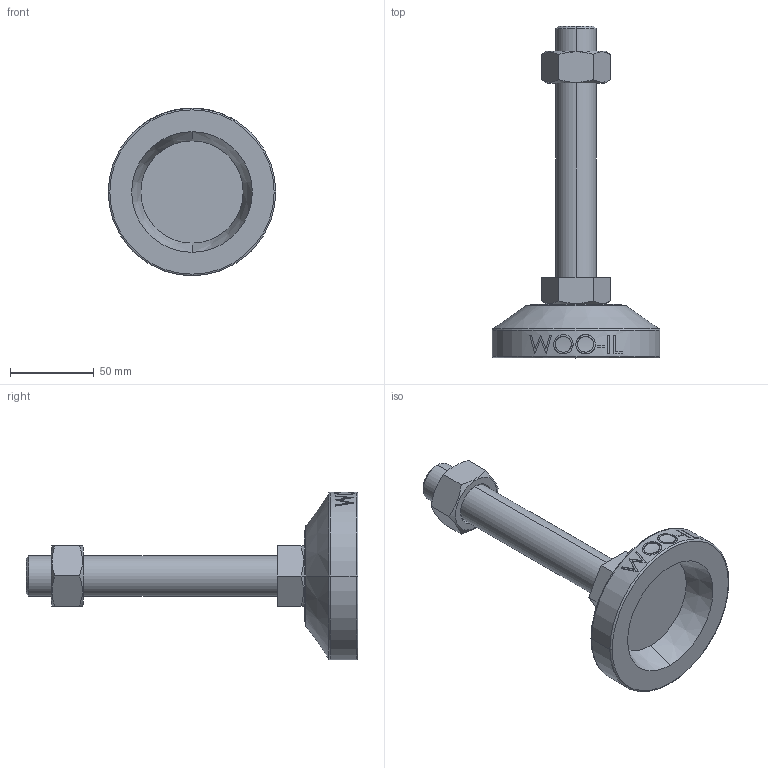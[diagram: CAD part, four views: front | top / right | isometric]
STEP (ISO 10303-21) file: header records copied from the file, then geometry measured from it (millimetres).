
FILE_DESCRIPTION (( 'STEP AP214' ), '1' );
FILE_NAME ('PAD-B100-M24-150.step', '2021-01-26T23:42:39', ( '' ), ( '' ), 'SwSTEP 2.0', 'SolidWorks 2019', '' );
FILE_SCHEMA (( 'AUTOMOTIVE_DESIGN' ));
Length unit declared in the file: millimetre
Products named in the file (2): PAD-B100-M24-150
Bounding box: 100 x 198 x 100 mm (x, y, z)
Volume: 246414.6 mm3; surface area: 45066.9 mm2
Topology: 3 solids, 3 shells, 100 faces, 235 edges, 152 vertices
Faces by surface type: plane 48, cylinder 16, cone 16, bspline 16, torus 4
Entity records: 4576 total; most frequent: CARTESIAN_POINT 2345, ORIENTED_EDGE 470, DIRECTION 403, EDGE_CURVE 235, VERTEX_POINT 152, AXIS2_PLACEMENT_3D 152, EDGE_LOOP 113, ADVANCED_FACE 100
